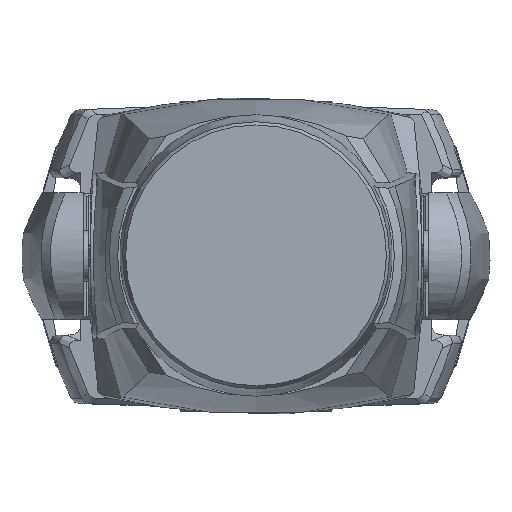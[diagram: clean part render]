
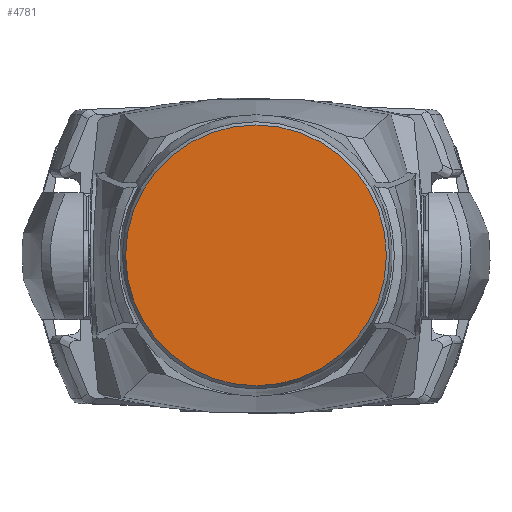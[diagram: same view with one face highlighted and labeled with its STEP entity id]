
A CAD part, top view. The second image highlights one B-rep face of the part: STEP entity #4781.
In plain terms, the highlighted planar face has unit normal (0, 0, 1).
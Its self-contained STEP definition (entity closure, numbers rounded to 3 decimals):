
#320=CIRCLE('',#5148,140.833);
#1688=ORIENTED_EDGE('',*,*,#2701,.T.);
#2701=EDGE_CURVE('',#3280,#3280,#320,.T.);
#3280=VERTEX_POINT('',#12086);
#4095=EDGE_LOOP('',(#1688));
#4386=FACE_BOUND('',#4095,.T.);
#4568=PLANE('',#5147);
#4781=ADVANCED_FACE('',(#4386),#4568,.T.);
#5147=AXIS2_PLACEMENT_3D('',#12084,#5899,#5900);
#5148=AXIS2_PLACEMENT_3D('',#12085,#5901,#5902);
#5899=DIRECTION('',(0.,0.,1.));
#5900=DIRECTION('',(1.,0.,0.));
#5901=DIRECTION('',(0.,0.,1.));
#5902=DIRECTION('',(1.,0.,0.));
#12084=CARTESIAN_POINT('',(0.,0.,341.4));
#12085=CARTESIAN_POINT('',(0.,0.,341.4));
#12086=CARTESIAN_POINT('',(140.833,0.,341.4));
